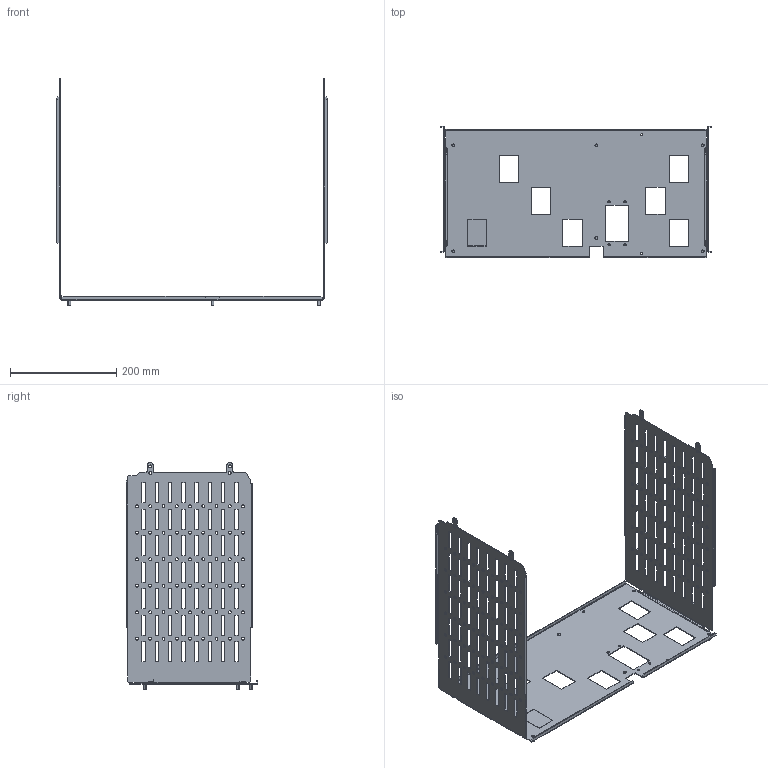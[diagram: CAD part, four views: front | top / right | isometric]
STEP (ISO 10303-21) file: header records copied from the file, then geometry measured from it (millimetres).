
FILE_DESCRIPTION(('CAx-IF Rec.Pracs.---Model Styling and Organization---1.2---2011-12-15','CAx-IF Rec.Pracs.---Geometric and Assembly Validation Properties---4.1---2014-06-16','CAx-IF Rec.Pracs.---PMI Polyline Presentation---2.0---2013-05-24'),'2;1');
FILE_NAME('R5M2W5M1A66.stp','2021-05-05T12:26:06+03:00',(''),(''),'STEP Interface 4.4 by CT CoreTechnologie','3D_Evolution4.4 by CT CoreTechnologie','');
FILE_SCHEMA(('AUTOMOTIVE_DESIGN { 1 0 10303 214 1 1 1 1 }'));
Length unit declared in the file: millimetre
Products named in the file (5): R5M2W5M1A66; RB.1285.00.00.0_-10; RB.1285.00.00.0_-11; M5x8-DIN7500C_stright; RB.1257.00.00.0_-07
Assembly tree (9 placements, depth 2):
  R5M2W5M1A66
    RB.1285.00.00.0_-10
    RB.1285.00.00.0_-11
    M5x8-DIN7500C_stright  x6
    RB.1257.00.00.0_-07
Bounding box: 510 x 247.5 x 428.6 mm (x, y, z)
Surface area: 565641.1 mm2 (no closed solid volume)
Topology: 0 solids, 10 shells, 961 faces, 2839 edges, 1890 vertices
Faces by surface type: plane 651, cylinder 310
Entity records: 32867 total; most frequent: CARTESIAN_POINT 5630, ORIENTED_EDGE 5618, DIRECTION 5313, EDGE_CURVE 2809, VECTOR 2207, LINE 2207, VERTEX_POINT 1870, AXIS2_PLACEMENT_3D 1553
